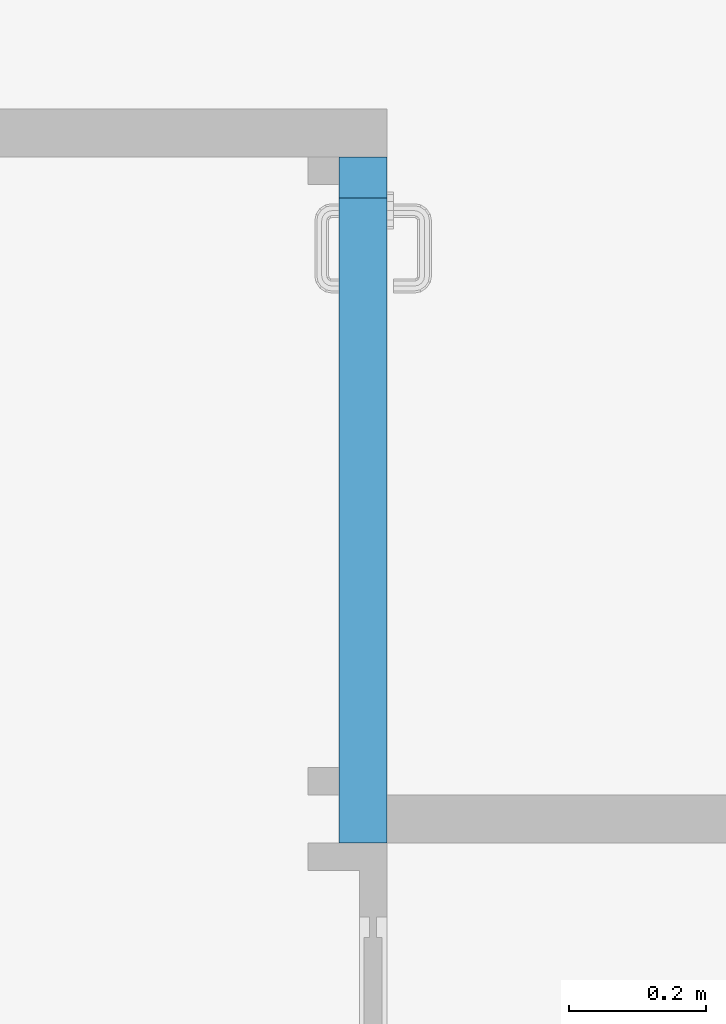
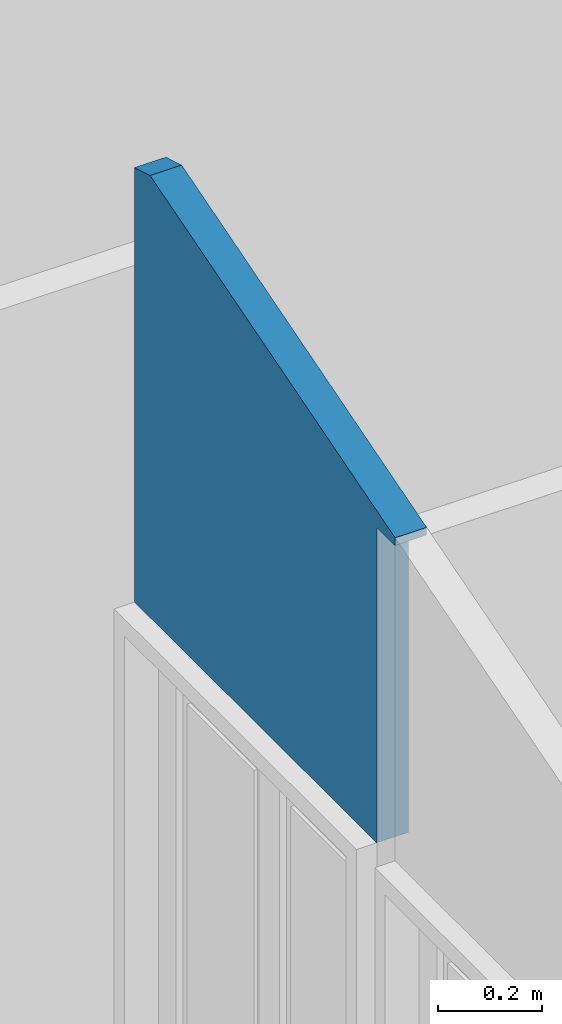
# One storey, part 2 of 8: 1 wall, 1 opening.
"""IFC2X3 building model written with IfcOpenShell, lengths in metres."""

from ifc_helpers import new_model, entity, si_unit, converted_unit, derived_unit, money_unit, direction, frame, origin_with_axes, origin_2d_with_axis, place, context, subcontext, project, spatial, polyline, rectangle, outline, extrude, boolean, clip, bounded_halfspace, faceted_brep, material, type_object, element, save


model = new_model("IFC2X3")

# Units and contexts
model_context = context("Model", 3, precision=1e-05, world=origin_with_axes(), true_north=direction((0.0, 1.0)))
body_context = subcontext(model_context, "Body", "Model", "MODEL_VIEW")
ifc_project = project(units=[si_unit("LENGTHUNIT", "METRE"), si_unit("AREAUNIT", "SQUARE_METRE"), si_unit("VOLUMEUNIT", "CUBIC_METRE"), converted_unit("PLANEANGLEUNIT", "DEGREE", entity("IfcPlaneAngleMeasure", 0.0174532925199), si_unit("PLANEANGLEUNIT", "RADIAN"), dimensions=[0, 0, 0, 0, 0, 0, 0]), si_unit("SOLIDANGLEUNIT", "STERADIAN"), money_unit("CHF"), converted_unit("TIMEUNIT", "Year", entity("IfcTimeMeasure", 31556926.0), si_unit("TIMEUNIT", "SECOND"), dimensions=[0, 0, 1, 0, 0, 0, 0]), si_unit("MASSUNIT", "GRAM", prefix="KILO"), si_unit("THERMODYNAMICTEMPERATUREUNIT", "DEGREE_CELSIUS"), si_unit("LUMINOUSINTENSITYUNIT", "LUMEN"), si_unit("ENERGYUNIT", "JOULE", prefix="MEGA"), derived_unit("THERMALCONDUCTANCEUNIT", [(si_unit("POWERUNIT", "WATT"), 1), (si_unit("LENGTHUNIT", "METRE"), -1), (si_unit("THERMODYNAMICTEMPERATUREUNIT", "KELVIN"), -1)]), derived_unit("SPECIFICHEATCAPACITYUNIT", [(si_unit("ENERGYUNIT", "JOULE"), 1), (si_unit("MASSUNIT", "GRAM", prefix="KILO"), -1), (si_unit("THERMODYNAMICTEMPERATUREUNIT", "KELVIN"), -1)]), derived_unit("MASSDENSITYUNIT", [(si_unit("MASSUNIT", "GRAM", prefix="KILO"), 1), (si_unit("VOLUMEUNIT", "CUBIC_METRE"), -1)])], contexts=[model_context])

# Site, building, storey
site_placement = place(None, origin_with_axes())
site = spatial("IfcSite", under=ifc_project, at=site_placement, Name="Site", CompositionType="ELEMENT")
building_placement = place(site_placement, origin_with_axes())
building = spatial("IfcBuilding", under=site, at=building_placement, Name="Bâtiment", CompositionType="ELEMENT")
storey_placement = place(building_placement, frame((0.0, 0.0, 6.0), z_axis=(0.0, 0.0, 1.0), x_axis=(1.0, 0.0, 0.0)))
storey = spatial("IfcBuildingStorey", under=building, at=storey_placement, Name="COMBLES", CompositionType="ELEMENT", Elevation=6.0)

# Wall, opening
ifc_material = material(Name="Hachure solide 2628782308")
wall_type = type_object("IfcWallType", Name="Hachure solide 2628782308 70", PredefinedType="NOTDEFINED")
wall_placement = place(storey_placement, frame((93.9988033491, 12.3751889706, -3.37), z_axis=(0.0, 0.0, 1.0), x_axis=(0.0, 1.0, 0.0)))
wall = element("IfcWall", 1, at=wall_placement, inside=storey, type_object=wall_type, material=ifc_material, Name="MurExt-005", context=body_context, shape_type="CSG", body=[
    boolean("DIFFERENCE", clip(clip(extrude(outline(polyline([(0.0, 0.0), (1.07, 0.0), (1.07, 0.07), (0.0, 0.07), (0.0, 0.0)])), origin_with_axes(), (0.0, 0.0, 1.0), 4.0), bounded_halfspace(frame((-0.788918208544, 0.0, 2.6633432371), z_axis=(0.284015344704, 0.0, -0.958819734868), x_axis=(0.0, 1.0, 0.0)), True, origin_with_axes(), polyline([(-1.66985791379, -0.01), (0.940152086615, -0.01), (0.940152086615, 0.08), (-1.66985791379, 0.08), (-1.66985791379, -0.01)]))), bounded_halfspace(frame((0.940592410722, 0.0, 3.17538676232), z_axis=(-0.284015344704, 0.0, -0.958819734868), x_axis=(0.0, 1.0, 0.0)), True, origin_with_axes(), polyline([(0.940152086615, -0.01), (3.55016208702, -0.01), (3.55016208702, 0.08), (0.940152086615, 0.08), (0.940152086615, -0.01)]))), faceted_brep([(1.0, 0.07, 4.0), (1.0, 0.0, 4.0), (1.07, 0.0, 4.0), (1.07, 0.07, 4.0), (1.0, 0.0, 3.17864841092), (1.0, 0.07, 3.17864841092), (0.940152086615, 0.0, 3.19637617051), (0.0, 0.0, 2.91789043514), (0.0, 0.0, 2.89703145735), (0.940152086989, 0.0, 3.17551719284), (1.0, 0.0, 3.15778943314), (1.0, 0.0, 2.9288335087), (1.0, 0.0, 0.05), (0.07, 0.0, 0.05), (0.07, 0.0, 2.8788335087), (0.0, 0.0, 2.8788335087), (0.0, 0.0, 0.0), (1.07, 0.0, 0.0), (1.07, 0.07, 0.0), (0.0, 0.07, 0.0), (0.0, 0.07, 2.8788335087), (0.07, 0.07, 2.8788335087), (0.07, 0.07, 0.05), (1.0, 0.07, 0.05), (1.0, 0.07, 2.9288335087), (1.0, 0.07, 3.15778943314), (0.940152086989, 0.07, 3.17551719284), (0.0, 0.07, 2.89703145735), (0.0, 0.07, 2.91789043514), (0.940152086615, 0.07, 3.19637617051)], [[[0, 1, 2, 3]], [[4, 1, 0, 5]], [[6, 7, 8, 9, 10, 11, 12, 13, 14, 15, 16, 17, 2, 1, 4]], [[2, 17, 18, 3]], [[5, 0, 3, 18, 19, 20, 21, 22, 23, 24, 25, 26, 27, 28, 29]], [[6, 4, 5, 29]], [[7, 6, 29, 28]], [[7, 28, 27, 8]], [[9, 8, 27, 26]], [[10, 9, 26, 25]], [[11, 10, 25, 24]], [[12, 11, 24, 23]], [[13, 12, 23, 22]], [[14, 13, 22, 21]], [[15, 14, 21, 20]], [[15, 20, 19, 16]], [[17, 16, 19, 18]]])),
])
opening_placement = place(wall_placement, frame((0.535, 0.0, 0.04), z_axis=(0.0, 0.0, 1.0), x_axis=(1.0, 0.0, 0.0)))
element("IfcOpeningElement", 2, at=opening_placement, cuts=wall, Name="Por-052", context=body_context, shape_type="SweptSolid", body=[
    extrude(rectangle(XDim=0.93, YDim=2.1, at=origin_2d_with_axis()), frame((0.0, 0.07, 1.05), z_axis=(0.0, -1.0, 0.0), x_axis=(-1.0, 0.0, 0.0)), (0.0, 0.0, 1.0), 0.21),
])

save(model, "model.ifc")
